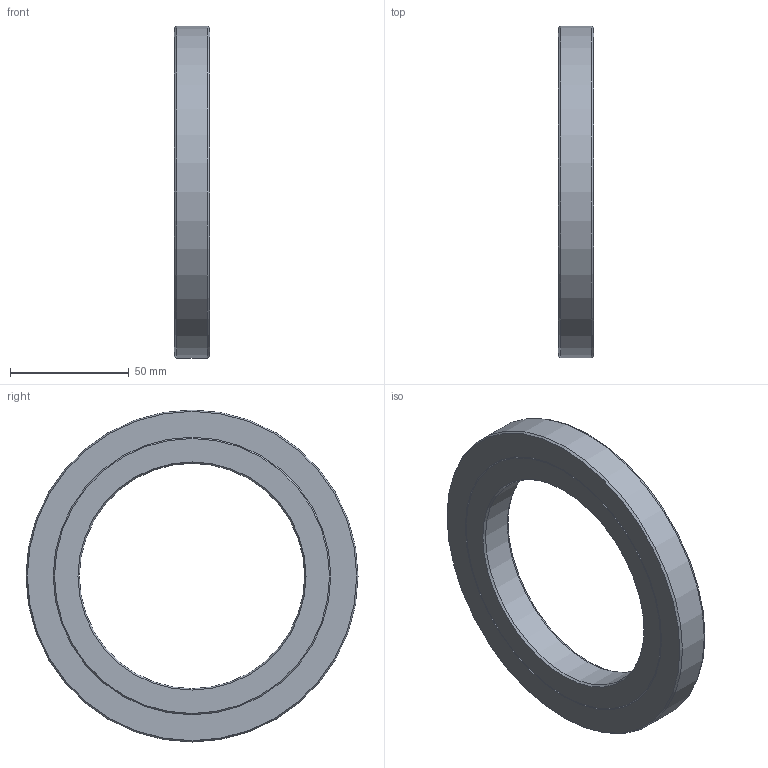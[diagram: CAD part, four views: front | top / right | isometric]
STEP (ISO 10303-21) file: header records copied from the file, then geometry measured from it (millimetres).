
FILE_DESCRIPTION(/* description */ (''),/* implementation_level */ '2;1');
FILE_NAME(/* name */ '301697 S95x140x15.stp',/* time_stamp */ '2016-12-16T14:07:22+01:00',/* author */ (''),/* organization */ (''),/* preprocessor_version */ 'ST-DEVELOPER v15',/* originating_system */ 'SIEMENS PLM Software NX 8.5',/* authorisation */ '');
FILE_SCHEMA (('CONFIG_CONTROL_DESIGN'));
Length unit declared in the file: millimetre
Products named in the file (1): ATE0000143_01
Bounding box: 15 x 140 x 140 mm (x, y, z)
Volume: 121220.7 mm3; surface area: 41270.6 mm2
Topology: 2 solids, 2 shells, 16 faces, 30 edges, 18 vertices
Faces by surface type: cone 10, plane 4, cylinder 2
Full cylindrical faces by diameter (mm): 95 x1, 140 x1
Entity records: 414 total; most frequent: DIRECTION 66, CARTESIAN_POINT 49, AXIS2_PLACEMENT_3D 33, FACE_BOUND 32, EDGE_LOOP 32, ORIENTED_EDGE 32, ADVANCED_FACE 16, VERTEX_POINT 16
